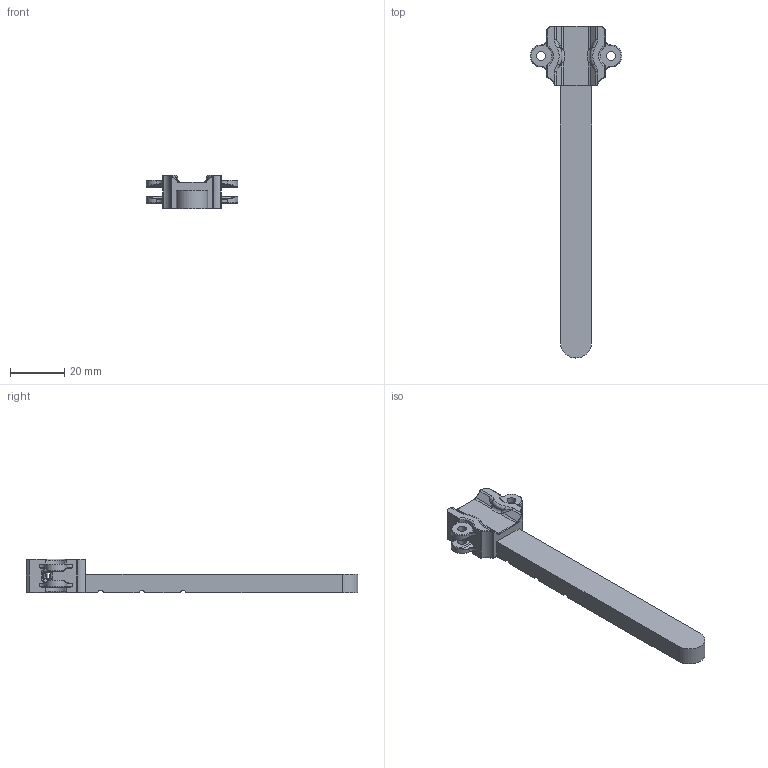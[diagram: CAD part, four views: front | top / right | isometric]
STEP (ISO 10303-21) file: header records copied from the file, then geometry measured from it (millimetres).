
FILE_DESCRIPTION(('STEP AP242 Edition 2','STEP AP242 Edition 2''CAx-IF Rec.Pracs.---Representation and Presentation of Product Manufacturing Information (PMI)---4.0---2014-10-13','STEP AP242 Edition 2''CAx-IF Rec.Pracs.---Representation and Presentation of Product Manufacturing Information (PMI)---4.0---2014-10-13''CAx-IF Rec.Pracs.---3D Tessellated Geometry---0.4---2014-09-14','STEP AP242 Edition 2''CAx-IF Rec.Pracs.---Representation and Presentation of Product Manufacturing Information (PMI)---4.0---2014-10-13''CAx-IF Rec.Pracs.---3D Tessellated Geometry---0.4---2014-09-14''2;1','STEP AP242 Edition 2''CAx-IF Rec.Pracs.---Representation and Presentation of Product Manufacturing Information (PMI)---4.0---2014-10-13''CAx-IF Rec.Pracs.---3D Tessellated Geometry---0.4---2014-09-14''2;1''CAx-IF Rec.Pracs.---User Defined Attributes---1.5---2016-08-15'),'2;1');
FILE_NAME('/vol/tmp/translate-14828459747141659303/NEO9 Upper - Handle.step','2026-04-12T20:13:35',(''),(''),'ST-DEVELOPER v20','ONSHAPE BY PTC INC, 1.213',' ');
FILE_SCHEMA(('AP242_MANAGED_MODEL_BASED_3D_ENGINEERING_MIM_LF { 1 0 10303 442 3 1 4 }'));
Length unit declared in the file: metre
Products named in the file (1): Handle
Bounding box: 33.64 x 121.88 x 12.3 mm (x, y, z)
Volume: 10751 mm3; surface area: 6842.9 mm2
Topology: 1 solids, 1 shells, 344 faces, 847 edges, 472 vertices
Faces by surface type: cylinder 133, bspline 82, plane 53, torus 48, sphere 28
Full cylindrical faces by diameter (mm): 3.2 x4
Entity records: 10789 total; most frequent: CARTESIAN_POINT 3242, ORIENTED_EDGE 1630, DIRECTION 1559, EDGE_CURVE 815, AXIS2_PLACEMENT_3D 653, VERTEX_POINT 472, EDGE_LOOP 359, FACE_BOUND 359
